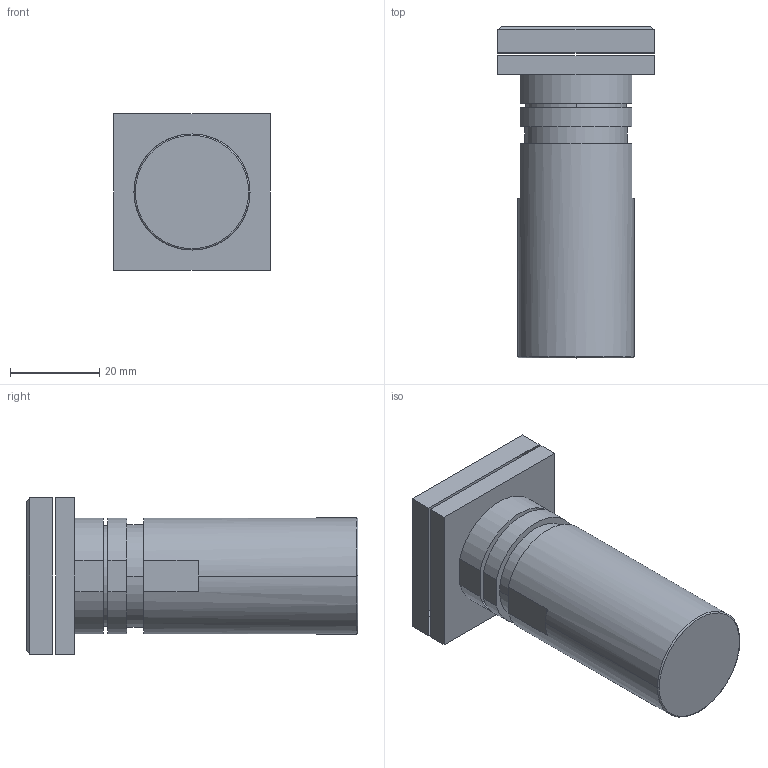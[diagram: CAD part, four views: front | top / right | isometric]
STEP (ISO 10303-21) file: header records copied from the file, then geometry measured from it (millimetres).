
FILE_DESCRIPTION((''),'2;1');
FILE_NAME('TRIMLESS_35_QUADRATO2_SW0001','2025-07-30T12:21:04',('cad5'),(''),'CREO PARAMETRIC BY PTC INC, 2025010','CREO PARAMETRIC BY PTC INC, 2025010','');
FILE_SCHEMA(('CONFIG_CONTROL_DESIGN'));
Length unit declared in the file: millimetre
Products named in the file (1): TRIMLESS_35_QUADRATO2_SW0001
Bounding box: 35 x 74.31 x 35 mm (x, y, z)
Surface area: 10532 mm2 (no closed solid volume)
Topology: 0 solids, 7 shells, 37 faces, 96 edges, 64 vertices
Faces by surface type: plane 25, cylinder 10, torus 2
Entity records: 1146 total; most frequent: CARTESIAN_POINT 203, DIRECTION 198, ORIENTED_EDGE 162, EDGE_CURVE 96, AXIS2_PLACEMENT_3D 67, VECTOR 64, LINE 64, VERTEX_POINT 64
